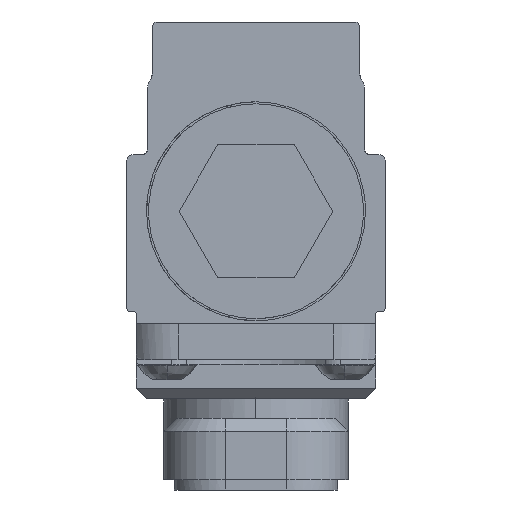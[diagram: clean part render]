
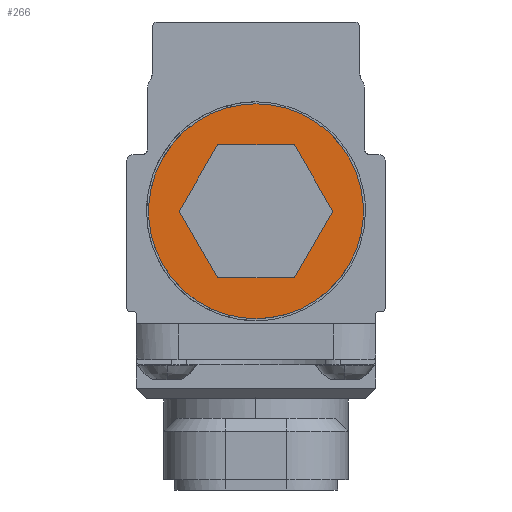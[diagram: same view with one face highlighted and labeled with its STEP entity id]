
A CAD part, left-side view. The second image highlights one B-rep face of the part: STEP entity #266.
In plain terms, the highlighted planar face has unit normal (-1, 0, 0).
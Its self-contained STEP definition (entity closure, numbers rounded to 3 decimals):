
#48=FACE_BOUND('',#969,.T.);
#266=ADVANCED_FACE('',(#611,#48),#5736,.T.);
#611=FACE_OUTER_BOUND('',#968,.T.);
#968=EDGE_LOOP('',(#2149,#2150));
#969=EDGE_LOOP('',(#2151,#2152,#2153,#2154,#2155,#2156));
#2149=ORIENTED_EDGE('',*,*,#3511,.T.);
#2150=ORIENTED_EDGE('',*,*,#3515,.T.);
#2151=ORIENTED_EDGE('',*,*,#3531,.F.);
#2152=ORIENTED_EDGE('',*,*,#3518,.F.);
#2153=ORIENTED_EDGE('',*,*,#3526,.F.);
#2154=ORIENTED_EDGE('',*,*,#3524,.F.);
#2155=ORIENTED_EDGE('',*,*,#3517,.F.);
#2156=ORIENTED_EDGE('',*,*,#3533,.F.);
#3511=EDGE_CURVE('',#5204,#5205,#4165,.T.);
#3515=EDGE_CURVE('',#5205,#5204,#4167,.T.);
#3517=EDGE_CURVE('',#5206,#5207,#4690,.T.);
#3518=EDGE_CURVE('',#5209,#5210,#4691,.T.);
#3524=EDGE_CURVE('',#5207,#5208,#4697,.T.);
#3526=EDGE_CURVE('',#5208,#5209,#4699,.T.);
#3531=EDGE_CURVE('',#5210,#5211,#4704,.T.);
#3533=EDGE_CURVE('',#5211,#5206,#4706,.T.);
#4165=(
BOUNDED_CURVE()
B_SPLINE_CURVE(2,(#10187,#10188,#10189,#10190,#10191),.UNSPECIFIED.,.F.,
 .F.)
B_SPLINE_CURVE_WITH_KNOTS((3,2,3),(0.,14.923,29.845),
 .UNSPECIFIED.)
CURVE()
GEOMETRIC_REPRESENTATION_ITEM()
RATIONAL_B_SPLINE_CURVE((1.,0.707,1.,0.707,1.))
REPRESENTATION_ITEM('')
);
#4167=(
BOUNDED_CURVE()
B_SPLINE_CURVE(2,(#10201,#10202,#10203,#10204,#10205),.UNSPECIFIED.,.F.,
 .F.)
B_SPLINE_CURVE_WITH_KNOTS((3,2,3),(29.845,44.768,59.69),
 .UNSPECIFIED.)
CURVE()
GEOMETRIC_REPRESENTATION_ITEM()
RATIONAL_B_SPLINE_CURVE((1.,0.707,1.,0.707,1.))
REPRESENTATION_ITEM('')
);
#4690=B_SPLINE_CURVE_WITH_KNOTS('',1,(#10211,#10212),.UNSPECIFIED.,.F.,
 .F.,(2,2),(0.,7.506),.UNSPECIFIED.);
#4691=B_SPLINE_CURVE_WITH_KNOTS('',1,(#10213,#10214),.UNSPECIFIED.,.F.,
 .F.,(2,2),(0.,7.506),.UNSPECIFIED.);
#4697=B_SPLINE_CURVE_WITH_KNOTS('',1,(#10225,#10226),.UNSPECIFIED.,.F.,
 .F.,(2,2),(-7.506,0.),.UNSPECIFIED.);
#4699=B_SPLINE_CURVE_WITH_KNOTS('',1,(#10229,#10230),.UNSPECIFIED.,.F.,
 .F.,(2,2),(-7.506,0.),.UNSPECIFIED.);
#4704=B_SPLINE_CURVE_WITH_KNOTS('',1,(#10239,#10240),.UNSPECIFIED.,.F.,
 .F.,(2,2),(-7.506,0.),.UNSPECIFIED.);
#4706=B_SPLINE_CURVE_WITH_KNOTS('',1,(#10243,#10244),.UNSPECIFIED.,.F.,
 .F.,(2,2),(-7.506,0.),.UNSPECIFIED.);
#5204=VERTEX_POINT('',#8920);
#5205=VERTEX_POINT('',#8921);
#5206=VERTEX_POINT('',#8922);
#5207=VERTEX_POINT('',#8923);
#5208=VERTEX_POINT('',#8924);
#5209=VERTEX_POINT('',#8925);
#5210=VERTEX_POINT('',#8926);
#5211=VERTEX_POINT('',#8927);
#5736=PLANE('',#5916);
#5916=AXIS2_PLACEMENT_3D('',#7890,#6079,$);
#6079=DIRECTION('',(-1.,0.,0.));
#7890=CARTESIAN_POINT('',(2828.567,-190.704,39.85));
#8920=CARTESIAN_POINT('',(2828.567,-178.104,37.75));
#8921=CARTESIAN_POINT('',(2828.567,-178.104,16.75));
#8922=CARTESIAN_POINT('',(2828.567,-174.351,20.75));
#8923=CARTESIAN_POINT('',(2828.567,-181.856,20.75));
#8924=CARTESIAN_POINT('',(2828.567,-185.609,27.25));
#8925=CARTESIAN_POINT('',(2828.567,-181.856,33.75));
#8926=CARTESIAN_POINT('',(2828.567,-174.351,33.75));
#8927=CARTESIAN_POINT('',(2828.567,-170.598,27.25));
#10187=CARTESIAN_POINT('',(2828.567,-178.104,37.75));
#10188=CARTESIAN_POINT('',(2828.567,-167.604,37.75));
#10189=CARTESIAN_POINT('',(2828.567,-167.604,27.25));
#10190=CARTESIAN_POINT('',(2828.567,-167.604,16.75));
#10191=CARTESIAN_POINT('',(2828.567,-178.104,16.75));
#10201=CARTESIAN_POINT('',(2828.567,-178.104,16.75));
#10202=CARTESIAN_POINT('',(2828.567,-188.604,16.75));
#10203=CARTESIAN_POINT('',(2828.567,-188.604,27.25));
#10204=CARTESIAN_POINT('',(2828.567,-188.604,37.75));
#10205=CARTESIAN_POINT('',(2828.567,-178.104,37.75));
#10211=CARTESIAN_POINT('',(2828.567,-174.351,20.75));
#10212=CARTESIAN_POINT('',(2828.567,-181.856,20.75));
#10213=CARTESIAN_POINT('',(2828.567,-181.856,33.75));
#10214=CARTESIAN_POINT('',(2828.567,-174.351,33.75));
#10225=CARTESIAN_POINT('',(2828.567,-181.856,20.75));
#10226=CARTESIAN_POINT('',(2828.567,-185.609,27.25));
#10229=CARTESIAN_POINT('',(2828.567,-185.609,27.25));
#10230=CARTESIAN_POINT('',(2828.567,-181.856,33.75));
#10239=CARTESIAN_POINT('',(2828.567,-174.351,33.75));
#10240=CARTESIAN_POINT('',(2828.567,-170.598,27.25));
#10243=CARTESIAN_POINT('',(2828.567,-170.598,27.25));
#10244=CARTESIAN_POINT('',(2828.567,-174.351,20.75));
